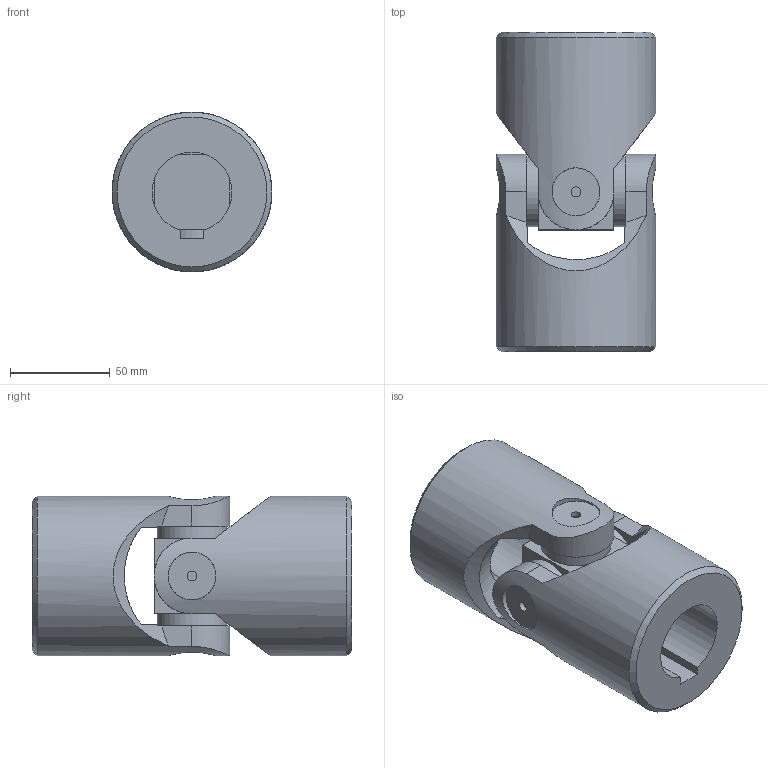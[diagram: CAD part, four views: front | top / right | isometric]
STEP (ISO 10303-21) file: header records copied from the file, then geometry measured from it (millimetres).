
FILE_DESCRIPTION(/* description */ (''),/* implementation_level */ '2;1');
FILE_NAME(/* name */ '\\SRV2016\Societa\Stefano\Disegni 3D\Dis. Clienti\0000Catalogo 3D\01Singoli G-GB\8G-2C_SG0S402C.stp',/* time_stamp */ '2021-11-10T13:42:02+01:00',/* author */ ('acquisti'),/* organization */ (''),/* preprocessor_version */ 'ST-DEVELOPER v15.6',/* originating_system */ 'Autodesk Inventor 2015',/* authorisation */ '');
FILE_SCHEMA (('AUTOMOTIVE_DESIGN { 1 0 10303 214 3 1 1 }'));
Length unit declared in the file: millimetre
Products named in the file (3): 8G SFE; 8G MOC; Assieme1
Assembly tree (3 placements, depth 2):
  Assieme1
    8G SFE
    8G MOC  x2
Bounding box: 80 x 160 x 80 mm (x, y, z)
Volume: 523762.1 mm3; surface area: 80901.5 mm2
Topology: 3 solids, 3 shells, 82 faces, 204 edges, 138 vertices
Faces by surface type: plane 42, cylinder 24, cone 14, torus 2
Full cylindrical faces by diameter (mm): 5 x4, 24 x4, 35 x4, 80 x2
Entity records: 1650 total; most frequent: CARTESIAN_POINT 545, DIRECTION 211, ORIENTED_EDGE 206, EDGE_CURVE 103, AXIS2_PLACEMENT_3D 88, VERTEX_POINT 77, EDGE_LOOP 68, FACE_OUTER_BOUND 48
